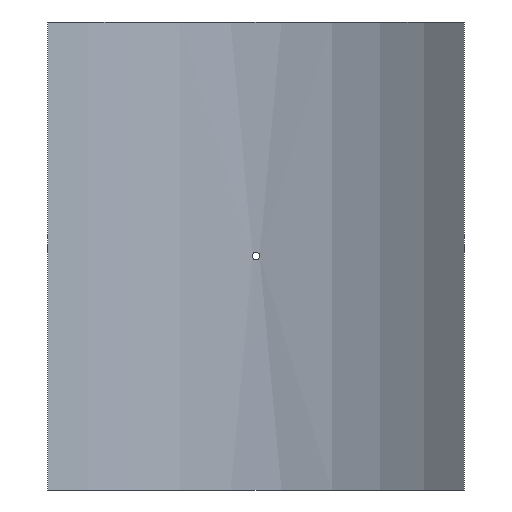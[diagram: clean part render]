
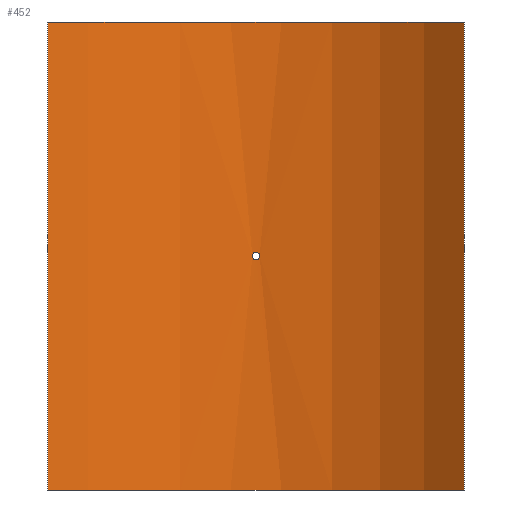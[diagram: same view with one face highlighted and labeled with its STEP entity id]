
A CAD part, front view. The second image highlights one B-rep face of the part: STEP entity #452.
In plain terms, the highlighted cylindrical face has radius 400 mm (diameter 800 mm), a partial arc.
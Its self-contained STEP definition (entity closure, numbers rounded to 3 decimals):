
#19=B_SPLINE_CURVE_WITH_KNOTS('',3,(#788,#789,#790,#791,#792,#793,#794,
#795,#796,#797,#798,#799,#800,#801,#802,#803,#804,#805,#806,#807,#808,#809,
#810,#811,#812,#813,#814,#815,#816,#817,#818,#819,#820,#821),
 .UNSPECIFIED.,.T.,.F.,(4,2,2,2,2,2,2,2,2,2,2,2,2,2,2,2,4),(0.,0.181,
0.362,0.542,0.723,0.904,1.085,
1.266,1.446,1.627,1.808,1.989,
2.17,2.351,2.531,2.712,2.893),
 .UNSPECIFIED.);
#43=LINE('',#1081,#62);
#44=LINE('',#1084,#63);
#62=VECTOR('',#661,10.);
#63=VECTOR('',#664,10.);
#76=CYLINDRICAL_SURFACE('',#530,400.);
#88=FACE_BOUND('',#167,.T.);
#127=FACE_OUTER_BOUND('',#166,.T.);
#166=EDGE_LOOP('',(#405,#406,#407,#408));
#167=EDGE_LOOP('',(#409));
#201=CIRCLE('',#529,400.);
#202=CIRCLE('',#531,400.);
#219=VERTEX_POINT('',#786);
#242=VERTEX_POINT('',#1074);
#243=VERTEX_POINT('',#1076);
#244=VERTEX_POINT('',#1080);
#245=VERTEX_POINT('',#1082);
#267=EDGE_CURVE('',#219,#219,#19,.T.);
#299=EDGE_CURVE('',#242,#243,#201,.T.);
#301=EDGE_CURVE('',#244,#242,#43,.T.);
#302=EDGE_CURVE('',#245,#244,#202,.T.);
#303=EDGE_CURVE('',#245,#243,#44,.T.);
#405=ORIENTED_EDGE('',*,*,#301,.F.);
#406=ORIENTED_EDGE('',*,*,#302,.F.);
#407=ORIENTED_EDGE('',*,*,#303,.T.);
#408=ORIENTED_EDGE('',*,*,#299,.F.);
#409=ORIENTED_EDGE('',*,*,#267,.T.);
#452=ADVANCED_FACE('',(#127,#88),#76,.F.);
#529=AXIS2_PLACEMENT_3D('',#1077,#656,#657);
#530=AXIS2_PLACEMENT_3D('',#1079,#659,#660);
#531=AXIS2_PLACEMENT_3D('',#1083,#662,#663);
#656=DIRECTION('center_axis',(0.,0.,1.));
#657=DIRECTION('ref_axis',(0.679,0.734,0.));
#659=DIRECTION('center_axis',(0.,0.,1.));
#660=DIRECTION('ref_axis',(0.679,0.734,0.));
#661=DIRECTION('',(0.,0.,-1.));
#662=DIRECTION('center_axis',(0.,0.,-1.));
#663=DIRECTION('ref_axis',(0.679,0.734,0.));
#664=DIRECTION('',(0.,0.,-1.));
#786=CARTESIAN_POINT('',(4.8,399.971,0.));
#788=CARTESIAN_POINT('Ctrl Pts',(4.8,399.971,0.));
#789=CARTESIAN_POINT('Ctrl Pts',(4.8,399.971,-0.603));
#790=CARTESIAN_POINT('Ctrl Pts',(4.68,399.973,-1.246));
#791=CARTESIAN_POINT('Ctrl Pts',(4.19,399.978,-2.428));
#792=CARTESIAN_POINT('Ctrl Pts',(3.82,399.982,-2.968));
#793=CARTESIAN_POINT('Ctrl Pts',(2.968,399.989,-3.82));
#794=CARTESIAN_POINT('Ctrl Pts',(2.428,399.993,-4.19));
#795=CARTESIAN_POINT('Ctrl Pts',(1.246,399.998,-4.68));
#796=CARTESIAN_POINT('Ctrl Pts',(0.603,400.,-4.8));
#797=CARTESIAN_POINT('Ctrl Pts',(-0.603,400.,-4.8));
#798=CARTESIAN_POINT('Ctrl Pts',(-1.246,399.998,-4.68));
#799=CARTESIAN_POINT('Ctrl Pts',(-2.428,399.993,-4.19));
#800=CARTESIAN_POINT('Ctrl Pts',(-2.968,399.989,-3.82));
#801=CARTESIAN_POINT('Ctrl Pts',(-3.82,399.982,-2.968));
#802=CARTESIAN_POINT('Ctrl Pts',(-4.19,399.978,-2.428));
#803=CARTESIAN_POINT('Ctrl Pts',(-4.68,399.973,-1.246));
#804=CARTESIAN_POINT('Ctrl Pts',(-4.8,399.971,-0.603));
#805=CARTESIAN_POINT('Ctrl Pts',(-4.8,399.971,0.603));
#806=CARTESIAN_POINT('Ctrl Pts',(-4.68,399.973,1.246));
#807=CARTESIAN_POINT('Ctrl Pts',(-4.19,399.978,2.428));
#808=CARTESIAN_POINT('Ctrl Pts',(-3.82,399.982,2.968));
#809=CARTESIAN_POINT('Ctrl Pts',(-2.968,399.989,3.82));
#810=CARTESIAN_POINT('Ctrl Pts',(-2.428,399.993,4.19));
#811=CARTESIAN_POINT('Ctrl Pts',(-1.246,399.998,4.68));
#812=CARTESIAN_POINT('Ctrl Pts',(-0.603,400.,4.8));
#813=CARTESIAN_POINT('Ctrl Pts',(0.603,400.,4.8));
#814=CARTESIAN_POINT('Ctrl Pts',(1.246,399.998,4.68));
#815=CARTESIAN_POINT('Ctrl Pts',(2.428,399.993,4.19));
#816=CARTESIAN_POINT('Ctrl Pts',(2.968,399.989,3.82));
#817=CARTESIAN_POINT('Ctrl Pts',(3.82,399.982,2.968));
#818=CARTESIAN_POINT('Ctrl Pts',(4.19,399.978,2.428));
#819=CARTESIAN_POINT('Ctrl Pts',(4.68,399.973,1.246));
#820=CARTESIAN_POINT('Ctrl Pts',(4.8,399.971,0.603));
#821=CARTESIAN_POINT('Ctrl Pts',(4.8,399.971,0.));
#1074=CARTESIAN_POINT('',(271.5,293.748,-305.));
#1076=CARTESIAN_POINT('',(-271.5,293.748,-305.));
#1077=CARTESIAN_POINT('Origin',(0.,0.,
-305.));
#1079=CARTESIAN_POINT('Origin',(0.,0.,
0.));
#1080=CARTESIAN_POINT('',(271.5,293.748,305.));
#1081=CARTESIAN_POINT('',(271.5,293.748,0.));
#1082=CARTESIAN_POINT('',(-271.5,293.748,305.));
#1083=CARTESIAN_POINT('Origin',(0.,0.,
305.));
#1084=CARTESIAN_POINT('',(-271.5,293.748,0.));
